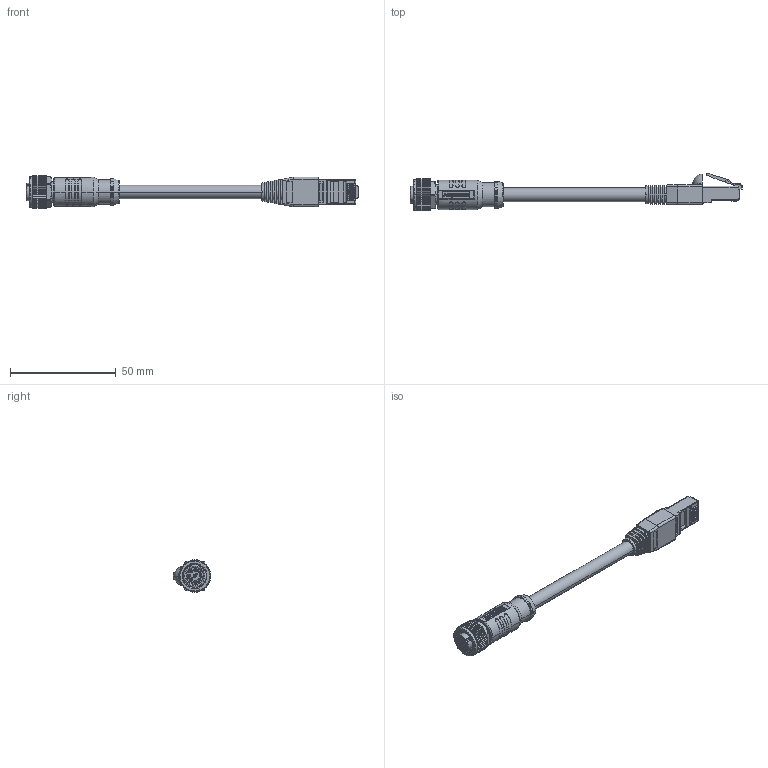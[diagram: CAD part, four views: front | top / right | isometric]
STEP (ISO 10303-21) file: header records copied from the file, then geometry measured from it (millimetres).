
FILE_DESCRIPTION(('OneSpaceDesigner STEP Export'),'2;1');
FILE_NAME('MSAS08FL-SPBML-SEXXX-STP.stp','2021-04-12T 9:20:48',(''),(''),'OneSpace Designer STEP processor for AP214 (Solid Model)','OneSpace Designer 13.20 11-May-2005 (C) CoCreate Software GmbH','');
FILE_SCHEMA(('AUTOMOTIVE_DESIGN { 1 0 10303 214 1 1 1 1 }'));
Products named in the file (2): ANA00011904
Assembly tree (1 placements, depth 2):
  ANA00011904
    ANA00011904
Bounding box: 157.22 x 17.99 x 15.3 mm (x, y, z)
Volume: 11186.4 mm3; surface area: 10447.3 mm2
Topology: 1 solids, 12 shells, 1696 faces, 4699 edges, 3026 vertices
Faces by surface type: plane 803, cylinder 443, cone 145, extrusion 141, bspline 76, torus 68, sphere 20
Entity records: 61630 total; most frequent: CARTESIAN_POINT 21862, ORIENTED_EDGE 9318, DIRECTION 6907, EDGE_CURVE 4657, VERTEX_POINT 3026, VECTOR 2851, LINE 2710, AXIS2_PLACEMENT_3D 2028
